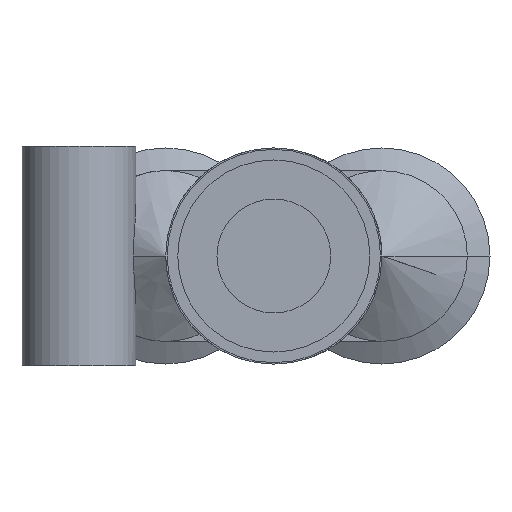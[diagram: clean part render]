
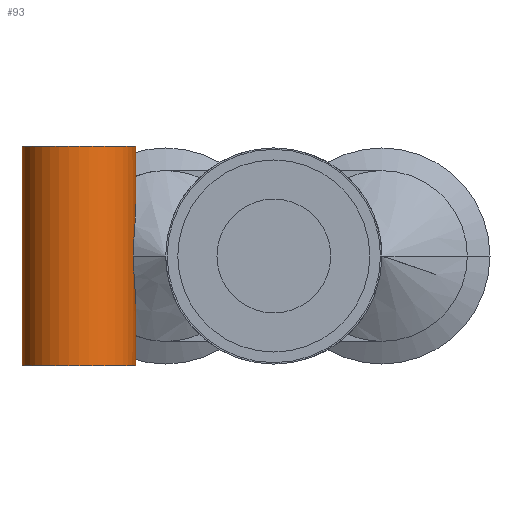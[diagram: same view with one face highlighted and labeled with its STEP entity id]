
A CAD part, front view. The second image highlights one B-rep face of the part: STEP entity #93.
In plain terms, the highlighted cylindrical face has radius 4 mm (diameter 8 mm), a partial arc.
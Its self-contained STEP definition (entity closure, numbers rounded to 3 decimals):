
#93 = ADVANCED_FACE( '', ( #184 ), #185, .T. );
#184 = FACE_OUTER_BOUND( '', #342, .T. );
#185 = CYLINDRICAL_SURFACE( '', #343, 4. );
#342 = EDGE_LOOP( '', ( #601, #602, #603, #604, #605, #606, #607 ) );
#343 = AXIS2_PLACEMENT_3D( '', #608, #609, #610 );
#601 = ORIENTED_EDGE( '', *, *, #1069, .F. );
#602 = ORIENTED_EDGE( '', *, *, #1070, .F. );
#603 = ORIENTED_EDGE( '', *, *, #1071, .F. );
#604 = ORIENTED_EDGE( '', *, *, #1072, .T. );
#605 = ORIENTED_EDGE( '', *, *, #1073, .F. );
#606 = ORIENTED_EDGE( '', *, *, #1015, .F. );
#607 = ORIENTED_EDGE( '', *, *, #1074, .F. );
#608 = CARTESIAN_POINT( '', ( -13.7, 20.2, 7.7 ) );
#609 = DIRECTION( '', ( 0., 0., 1. ) );
#610 = DIRECTION( '', ( 1., 0., 0. ) );
#1015 = EDGE_CURVE( '', #1190, #1193, #1194, .T. );
#1069 = EDGE_CURVE( '', #1293, #1294, #1295, .T. );
#1070 = EDGE_CURVE( '', #1296, #1293, #1297, .T. );
#1071 = EDGE_CURVE( '', #1298, #1296, #1299, .T. );
#1072 = EDGE_CURVE( '', #1298, #1300, #1301, .T. );
#1073 = EDGE_CURVE( '', #1193, #1300, #1302, .T. );
#1074 = EDGE_CURVE( '', #1294, #1190, #1303, .T. );
#1190 = VERTEX_POINT( '', #1456 );
#1193 = VERTEX_POINT( '', #1460 );
#1194 = B_SPLINE_CURVE_WITH_KNOTS( '', 3, ( #1461, #1462, #1463, #1464, #1465, #1466, #1467, #1468, #1469, #1470, #1471, #1472, #1473, #1474, #1475, #1476, #1477, #1478, #1479, #1480, #1481, #1482, #1483, #1484, #1485, #1486 ), .UNSPECIFIED., .F., .F., ( 4, 2, 2, 2, 2, 2, 2, 2, 2, 2, 2, 2, 4 ), ( 1.655, 1.884, 3.767, 4.709, 5.651, 6.593, 7.534, 8.476, 9.418, 10.36, 11.302, 13.185, 13.414 ), .UNSPECIFIED. );
#1293 = VERTEX_POINT( '', #1699 );
#1294 = VERTEX_POINT( '', #1700 );
#1295 = LINE( '', #1701, #1702 );
#1296 = VERTEX_POINT( '', #1703 );
#1297 = CIRCLE( '', #1704, 4. );
#1298 = VERTEX_POINT( '', #1705 );
#1299 = LINE( '', #1706, #1707 );
#1300 = VERTEX_POINT( '', #1708 );
#1301 = CIRCLE( '', #1709, 4. );
#1302 = LINE( '', #1710, #1711 );
#1303 = B_SPLINE_CURVE_WITH_KNOTS( '', 3, ( #1712, #1713, #1714, #1715, #1716, #1717, #1718, #1719, #1720, #1721, #1722, #1723, #1724, #1725, #1726, #1727, #1728, #1729, #1730, #1731, #1732, #1733, #1734, #1735, #1736, #1737 ), .UNSPECIFIED., .F., .F., ( 4, 2, 2, 2, 2, 2, 2, 2, 2, 2, 2, 2, 4 ), ( 1.655, 1.884, 3.767, 4.709, 5.651, 6.593, 7.534, 8.476, 9.418, 10.36, 11.302, 13.185, 13.414 ), .UNSPECIFIED. );
#1456 = CARTESIAN_POINT( '', ( -9.876, 19.027, 0. ) );
#1460 = CARTESIAN_POINT( '', ( -9.7, 20.2, -3.736 ) );
#1461 = CARTESIAN_POINT( '', ( -9.827, 21.2, 5.571 ) );
#1462 = CARTESIAN_POINT( '', ( -9.817, 21.161, 5.503 ) );
#1463 = CARTESIAN_POINT( '', ( -9.807, 21.122, 5.435 ) );
#1464 = CARTESIAN_POINT( '', ( -9.726, 20.76, 4.799 ) );
#1465 = CARTESIAN_POINT( '', ( -9.696, 20.44, 4.215 ) );
#1466 = CARTESIAN_POINT( '', ( -9.702, 19.996, 3.33 ) );
#1467 = CARTESIAN_POINT( '', ( -9.713, 19.854, 3.034 ) );
#1468 = CARTESIAN_POINT( '', ( -9.744, 19.591, 2.439 ) );
#1469 = CARTESIAN_POINT( '', ( -9.766, 19.47, 2.14 ) );
#1470 = CARTESIAN_POINT( '', ( -9.81, 19.264, 1.539 ) );
#1471 = CARTESIAN_POINT( '', ( -9.832, 19.179, 1.236 ) );
#1472 = CARTESIAN_POINT( '', ( -9.865, 19.06, 0.624 ) );
#1473 = CARTESIAN_POINT( '', ( -9.876, 19.027, 0.314 ) );
#1474 = CARTESIAN_POINT( '', ( -9.876, 19.027, -0.314 ) );
#1475 = CARTESIAN_POINT( '', ( -9.865, 19.06, -0.624 ) );
#1476 = CARTESIAN_POINT( '', ( -9.832, 19.179, -1.236 ) );
#1477 = CARTESIAN_POINT( '', ( -9.81, 19.264, -1.539 ) );
#1478 = CARTESIAN_POINT( '', ( -9.766, 19.47, -2.14 ) );
#1479 = CARTESIAN_POINT( '', ( -9.744, 19.591, -2.439 ) );
#1480 = CARTESIAN_POINT( '', ( -9.713, 19.854, -3.034 ) );
#1481 = CARTESIAN_POINT( '', ( -9.702, 19.996, -3.33 ) );
#1482 = CARTESIAN_POINT( '', ( -9.696, 20.44, -4.215 ) );
#1483 = CARTESIAN_POINT( '', ( -9.726, 20.76, -4.799 ) );
#1484 = CARTESIAN_POINT( '', ( -9.807, 21.122, -5.435 ) );
#1485 = CARTESIAN_POINT( '', ( -9.817, 21.161, -5.503 ) );
#1486 = CARTESIAN_POINT( '', ( -9.827, 21.2, -5.571 ) );
#1699 = CARTESIAN_POINT( '', ( -9.7, 20.2, 7.7 ) );
#1700 = CARTESIAN_POINT( '', ( -9.7, 20.2, 3.736 ) );
#1701 = CARTESIAN_POINT( '', ( -9.7, 20.2, 7.7 ) );
#1702 = VECTOR( '', #2104, 1. );
#1703 = CARTESIAN_POINT( '', ( -17.7, 20.2, 7.7 ) );
#1704 = AXIS2_PLACEMENT_3D( '', #2105, #2106, #2107 );
#1705 = CARTESIAN_POINT( '', ( -17.7, 20.2, -7.7 ) );
#1706 = CARTESIAN_POINT( '', ( -17.7, 20.2, 7.7 ) );
#1707 = VECTOR( '', #2108, 1. );
#1708 = CARTESIAN_POINT( '', ( -9.7, 20.2, -7.7 ) );
#1709 = AXIS2_PLACEMENT_3D( '', #2109, #2110, #2111 );
#1710 = CARTESIAN_POINT( '', ( -9.7, 20.2, 7.7 ) );
#1711 = VECTOR( '', #2112, 1. );
#1712 = CARTESIAN_POINT( '', ( -9.827, 21.2, 5.571 ) );
#1713 = CARTESIAN_POINT( '', ( -9.817, 21.161, 5.503 ) );
#1714 = CARTESIAN_POINT( '', ( -9.807, 21.122, 5.435 ) );
#1715 = CARTESIAN_POINT( '', ( -9.726, 20.76, 4.799 ) );
#1716 = CARTESIAN_POINT( '', ( -9.696, 20.44, 4.215 ) );
#1717 = CARTESIAN_POINT( '', ( -9.702, 19.996, 3.33 ) );
#1718 = CARTESIAN_POINT( '', ( -9.713, 19.854, 3.034 ) );
#1719 = CARTESIAN_POINT( '', ( -9.744, 19.591, 2.439 ) );
#1720 = CARTESIAN_POINT( '', ( -9.766, 19.47, 2.14 ) );
#1721 = CARTESIAN_POINT( '', ( -9.81, 19.264, 1.539 ) );
#1722 = CARTESIAN_POINT( '', ( -9.832, 19.179, 1.236 ) );
#1723 = CARTESIAN_POINT( '', ( -9.865, 19.06, 0.624 ) );
#1724 = CARTESIAN_POINT( '', ( -9.876, 19.027, 0.314 ) );
#1725 = CARTESIAN_POINT( '', ( -9.876, 19.027, -0.314 ) );
#1726 = CARTESIAN_POINT( '', ( -9.865, 19.06, -0.624 ) );
#1727 = CARTESIAN_POINT( '', ( -9.832, 19.179, -1.236 ) );
#1728 = CARTESIAN_POINT( '', ( -9.81, 19.264, -1.539 ) );
#1729 = CARTESIAN_POINT( '', ( -9.766, 19.47, -2.14 ) );
#1730 = CARTESIAN_POINT( '', ( -9.744, 19.591, -2.439 ) );
#1731 = CARTESIAN_POINT( '', ( -9.713, 19.854, -3.034 ) );
#1732 = CARTESIAN_POINT( '', ( -9.702, 19.996, -3.33 ) );
#1733 = CARTESIAN_POINT( '', ( -9.696, 20.44, -4.215 ) );
#1734 = CARTESIAN_POINT( '', ( -9.726, 20.76, -4.799 ) );
#1735 = CARTESIAN_POINT( '', ( -9.807, 21.122, -5.435 ) );
#1736 = CARTESIAN_POINT( '', ( -9.817, 21.161, -5.503 ) );
#1737 = CARTESIAN_POINT( '', ( -9.827, 21.2, -5.571 ) );
#2104 = DIRECTION( '', ( 0., 0., -1. ) );
#2105 = CARTESIAN_POINT( '', ( -13.7, 20.2, 7.7 ) );
#2106 = DIRECTION( '', ( 0., 0., 1. ) );
#2107 = DIRECTION( '', ( 1., 0., 0. ) );
#2108 = DIRECTION( '', ( 0., 0., 1. ) );
#2109 = CARTESIAN_POINT( '', ( -13.7, 20.2, -7.7 ) );
#2110 = DIRECTION( '', ( 0., 0., 1. ) );
#2111 = DIRECTION( '', ( 1., 0., 0. ) );
#2112 = DIRECTION( '', ( 0., 0., -1. ) );
